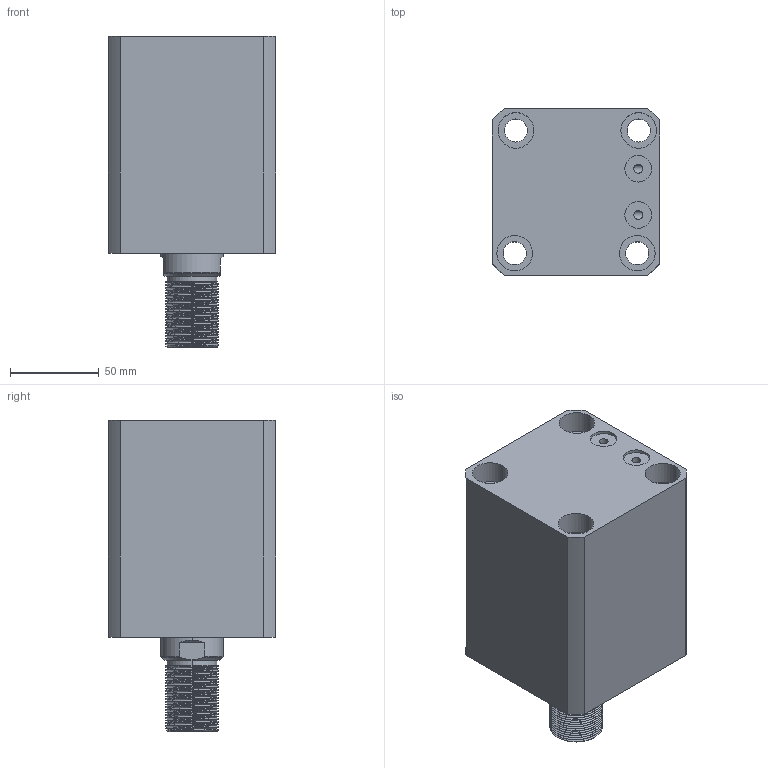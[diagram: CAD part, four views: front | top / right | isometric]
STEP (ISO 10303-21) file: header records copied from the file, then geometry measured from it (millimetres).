
FILE_DESCRIPTION (( 'STEP AP214' ), '1' );
FILE_NAME ('chtb-sdmb63x55w_asm.STEP', '2018-05-18T11:42:23', ( 'Windows' ), ( 'Microsoft' ), 'SwSTEP 2.0', 'SolidWorks 2015', '' );
FILE_SCHEMA (( 'AUTOMOTIVE_DESIGN' ));
Length unit declared in the file: millimetre
Products named in the file (4): CHTB63X55WHSG; CHTB-63QG; chtb-sdmb63x55w_asm; CHTB-SDMB63X55NBT
Assembly tree (3 placements, depth 2):
  chtb-sdmb63x55w_asm
    CHTB-63QG
    CHTB63X55WHSG
    CHTB-SDMB63X55NBT
Bounding box: 94 x 94 x 175 mm (x, y, z)
Volume: 902560.6 mm3; surface area: 154335 mm2
Topology: 3 solids, 3 shells, 218 faces, 628 edges, 427 vertices
Faces by surface type: cylinder 156, plane 33, bspline 14, cone 9, torus 6
Entity records: 22278 total; most frequent: CARTESIAN_POINT 17042, ORIENTED_EDGE 1248, DIRECTION 869, EDGE_CURVE 624, VERTEX_POINT 427, AXIS2_PLACEMENT_3D 339, EDGE_LOOP 251, ADVANCED_FACE 218
